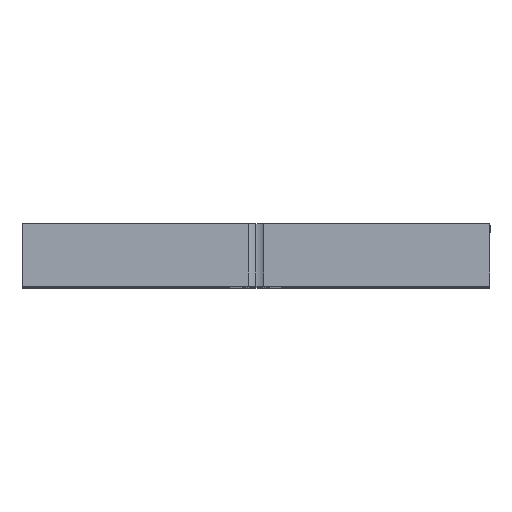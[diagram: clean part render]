
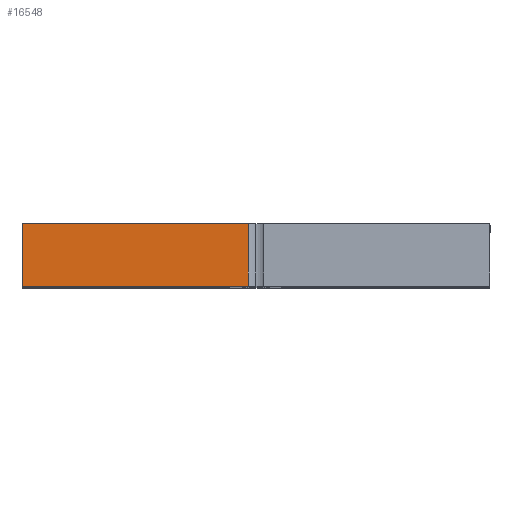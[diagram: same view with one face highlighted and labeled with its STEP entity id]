
A CAD part, top view. The second image highlights one B-rep face of the part: STEP entity #16548.
In plain terms, the highlighted planar face has unit normal (0, 0, 1).
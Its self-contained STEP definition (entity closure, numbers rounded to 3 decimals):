
#692 = PLANE ( 'NONE',  #2204 ) ;
#1502 = CARTESIAN_POINT ( 'NONE',  ( -54., 0., 0. ) ) ;
#2204 = AXIS2_PLACEMENT_3D ( 'NONE', #6708, #9647, #17163 ) ;
#2306 = CARTESIAN_POINT ( 'NONE',  ( -54., 7.2, 0. ) ) ;
#3232 = EDGE_CURVE ( 'NONE', #12268, #10135, #4406, .T. ) ;
#3387 = DIRECTION ( 'NONE',  ( 1., 0., 0. ) ) ;
#3822 = LINE ( 'NONE', #1502, #12239 ) ;
#4323 = ORIENTED_EDGE ( 'NONE', *, *, #3232, .F. ) ;
#4406 = LINE ( 'NONE', #17311, #11898 ) ;
#4682 = CARTESIAN_POINT ( 'NONE',  ( -54., 0., 0. ) ) ;
#5288 = LINE ( 'NONE', #12409, #7395 ) ;
#5704 = CARTESIAN_POINT ( 'NONE',  ( -27.917, -3.005, 0. ) ) ;
#5830 = DIRECTION ( 'NONE',  ( 0., 1., 0. ) ) ;
#6708 = CARTESIAN_POINT ( 'NONE',  ( -2., 0., 0. ) ) ;
#6793 = EDGE_LOOP ( 'NONE', ( #9486, #15816, #13691, #4323 ) ) ;
#7275 = VECTOR ( 'NONE', #5830, 1000. ) ;
#7377 = DIRECTION ( 'NONE',  ( 0., -1., 0. ) ) ;
#7395 = VECTOR ( 'NONE', #3387, 1000. ) ;
#9486 = ORIENTED_EDGE ( 'NONE', *, *, #19193, .T. ) ;
#9647 = DIRECTION ( 'NONE',  ( 0., 0., 1. ) ) ;
#10038 = VERTEX_POINT ( 'NONE', #4682 ) ;
#10135 = VERTEX_POINT ( 'NONE', #18772 ) ;
#10635 = FACE_OUTER_BOUND ( 'NONE', #6793, .T. ) ;
#10714 = VERTEX_POINT ( 'NONE', #19198 ) ;
#10863 = EDGE_CURVE ( 'NONE', #10038, #10714, #5288, .T. ) ;
#11898 = VECTOR ( 'NONE', #16063, 1000. ) ;
#12239 = VECTOR ( 'NONE', #7377, 1000. ) ;
#12268 = VERTEX_POINT ( 'NONE', #2306 ) ;
#12409 = CARTESIAN_POINT ( 'NONE',  ( -2., 0., 0. ) ) ;
#13052 = EDGE_CURVE ( 'NONE', #10714, #10135, #18487, .T. ) ;
#13691 = ORIENTED_EDGE ( 'NONE', *, *, #13052, .T. ) ;
#15816 = ORIENTED_EDGE ( 'NONE', *, *, #10863, .T. ) ;
#16063 = DIRECTION ( 'NONE',  ( 1., 0., 0. ) ) ;
#16548 = ADVANCED_FACE ( 'NONE', ( #10635 ), #692, .T. ) ;
#17163 = DIRECTION ( 'NONE',  ( 1., 0., 0. ) ) ;
#17311 = CARTESIAN_POINT ( 'NONE',  ( -52., 7.2, 0. ) ) ;
#18487 = LINE ( 'NONE', #5704, #7275 ) ;
#18772 = CARTESIAN_POINT ( 'NONE',  ( -27.917, 7.2, 0. ) ) ;
#19193 = EDGE_CURVE ( 'NONE', #12268, #10038, #3822, .T. ) ;
#19198 = CARTESIAN_POINT ( 'NONE',  ( -27.917, 0., 0. ) ) ;
